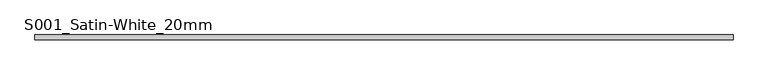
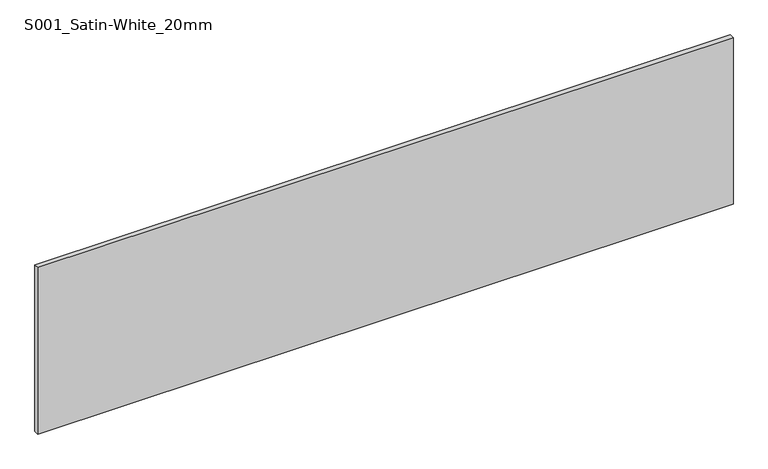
"""IFC4 building model written with IfcOpenShell, lengths in millimetres: plate geometry, Curtain-Panels_Outdoor-Material_HI-MACS_Solids : S001_Satin-White_20mm."""

from ifc_helpers import new_model, si_unit, origin, origin_with_axes, place, context, project, spatial, polyline, outline, extrude, source, transform, mapped, element, save


def s001_satin_white_20mm_25284a5f(model_context):
    return source(origin(), model_context, "Body", "SweptSolid", [
        extrude(outline(polyline([(1500.0, 10.0), (1500.0, -10.0), (-1500.0, -10.0), (-1500.0, 10.0), (1500.0, 10.0)])), origin_with_axes(), (0.0, 0.0, 1.0), 760.0),
    ])


if __name__ == "__main__":
    model = new_model("IFC4")
    model_context = context("Model", 3, world=origin())
    ifc_project = project(units=[si_unit("LENGTHUNIT", "METRE", prefix="MILLI")], contexts=[model_context])
    site = spatial("IfcSite", under=ifc_project)
    building = spatial("IfcBuilding", under=site)
    placement = place(None, origin())
    s001_satin_white_20mm_shape = s001_satin_white_20mm_25284a5f(model_context)
    element("IfcPlate", 1, ObjectType="Curtain-Panels_Outdoor-Material_HI-MACS_Solids : S001_Satin-White_20mm", at=placement, inside=building, context=model_context, shape_type="MappedRepresentation", body=[
        mapped(s001_satin_white_20mm_shape, transform((0.0, 0.0, 0.0), x_axis=(1.0, 0.0, 0.0), y_axis=(0.0, 1.0, 0.0), z_axis=(0.0, 0.0, 1.0))),
    ])
    save(model, "model.ifc")
